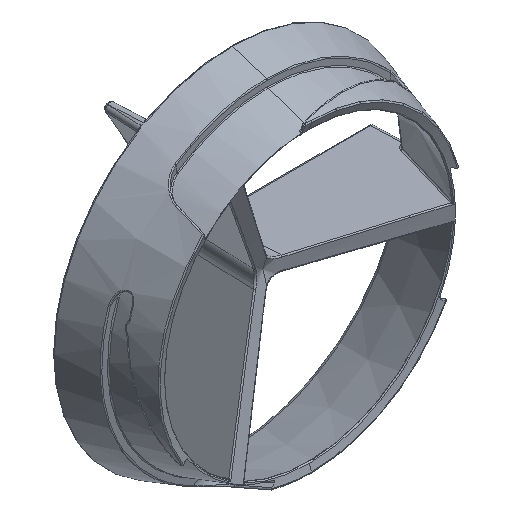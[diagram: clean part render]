
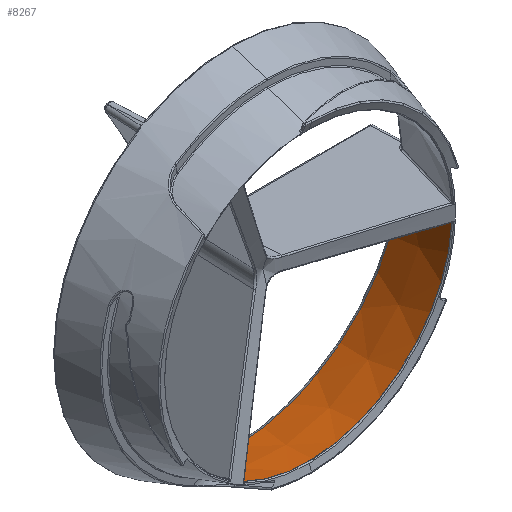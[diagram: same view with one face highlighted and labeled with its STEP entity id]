
A CAD part, isometric view. The second image highlights one B-rep face of the part: STEP entity #8267.
In plain terms, the highlighted conical face has half-angle 17.797 degrees and reference radius 31.946 mm.
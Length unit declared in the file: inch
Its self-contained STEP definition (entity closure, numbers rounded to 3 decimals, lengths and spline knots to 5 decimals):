
#129 = VERTEX_POINT ( 'NONE', #8922 ) ;
#137 = DIRECTION ( 'NONE',  ( 0., 1., 0. ) ) ;
#162 = EDGE_CURVE ( 'NONE', #5011, #11856, #8489, .T. ) ;
#750 = CARTESIAN_POINT ( 'NONE',  ( 0., 0.67201, -1.46569 ) ) ;
#794 = EDGE_LOOP ( 'NONE', ( #4236, #5754, #5793, #10916, #1299, #2564, #13422 ) ) ;
#880 = CARTESIAN_POINT ( 'NONE',  ( -0.55605, 0.03408, -1.13169 ) ) ;
#907 = DIRECTION ( 'NONE',  ( 0., 0., 1. ) ) ;
#927 = CARTESIAN_POINT ( 'NONE',  ( -0.55595, 0.03344, -1.13151 ) ) ;
#1184 = CARTESIAN_POINT ( 'NONE',  ( 1.2582, 0.0344, -0.08428 ) ) ;
#1299 = ORIENTED_EDGE ( 'NONE', *, *, #9884, .T. ) ;
#1637 = B_SPLINE_CURVE_WITH_KNOTS ( 'NONE', 3,
 ( #11662, #4043, #11594, #6239 ),
 .UNSPECIFIED., .F., .F.,
 ( 4, 4 ),
 ( 0., 0.00003 ),
 .UNSPECIFIED. ) ;
#1763 = AXIS2_PLACEMENT_3D ( 'NONE', #2696, #3611, #8067 ) ;
#2228 = CARTESIAN_POINT ( 'NONE',  ( 1.46439, 0.67201, -0.06179 ) ) ;
#2564 = ORIENTED_EDGE ( 'NONE', *, *, #7236, .T. ) ;
#2636 = CARTESIAN_POINT ( 'NONE',  ( 0., 0.67201, 0. ) ) ;
#2696 = CARTESIAN_POINT ( 'NONE',  ( 0., 0.03344, 0. ) ) ;
#3049 = B_SPLINE_CURVE_WITH_KNOTS ( 'NONE', 3,
 ( #12429, #11840, #9184, #8127 ),
 .UNSPECIFIED., .F., .F.,
 ( 4, 4 ),
 ( 0., 1. ),
 .UNSPECIFIED. ) ;
#3313 = B_SPLINE_CURVE_WITH_KNOTS ( 'NONE', 3,
 ( #1184, #6484, #9527, #2228 ),
 .UNSPECIFIED., .F., .F.,
 ( 4, 4 ),
 ( 0., 1. ),
 .UNSPECIFIED. ) ;
#3611 = DIRECTION ( 'NONE',  ( 0., -1., 0. ) ) ;
#4043 = CARTESIAN_POINT ( 'NONE',  ( 1.25799, 0.03376, -0.0843 ) ) ;
#4223 = DIRECTION ( 'NONE',  ( 0., 1., 0. ) ) ;
#4236 = ORIENTED_EDGE ( 'NONE', *, *, #12488, .T. ) ;
#4626 = AXIS2_PLACEMENT_3D ( 'NONE', #6625, #137, #13048 ) ;
#4809 = VERTEX_POINT ( 'NONE', #10228 ) ;
#5011 = VERTEX_POINT ( 'NONE', #10420 ) ;
#5050 = VERTEX_POINT ( 'NONE', #750 ) ;
#5429 = FACE_OUTER_BOUND ( 'NONE', #794, .T. ) ;
#5457 = EDGE_CURVE ( 'NONE', #4809, #129, #1637, .T. ) ;
#5638 = AXIS2_PLACEMENT_3D ( 'NONE', #13899, #4223, #907 ) ;
#5754 = ORIENTED_EDGE ( 'NONE', *, *, #5457, .T. ) ;
#5758 = DIRECTION ( 'NONE',  ( 0., 0., 1. ) ) ;
#5793 = ORIENTED_EDGE ( 'NONE', *, *, #12873, .T. ) ;
#6239 = CARTESIAN_POINT ( 'NONE',  ( 1.2582, 0.0344, -0.08428 ) ) ;
#6484 = CARTESIAN_POINT ( 'NONE',  ( 1.32183, 0.23073, -0.07735 ) ) ;
#6625 = CARTESIAN_POINT ( 'NONE',  ( 0., 0.02407, 0. ) ) ;
#7236 = EDGE_CURVE ( 'NONE', #13443, #5011, #3049, .T. ) ;
#7556 = CONICAL_SURFACE ( 'NONE', #4626, 1.2577, 0.311 ) ;
#7665 = AXIS2_PLACEMENT_3D ( 'NONE', #2636, #13366, #5758 ) ;
#7767 = CARTESIAN_POINT ( 'NONE',  ( -0.67869, 0.67201, -1.29909 ) ) ;
#7841 = CIRCLE ( 'NONE', #1763, 1.26071 ) ;
#7974 = VERTEX_POINT ( 'NONE', #11299 ) ;
#8067 = DIRECTION ( 'NONE',  ( 0., 0., 1. ) ) ;
#8124 = CIRCLE ( 'NONE', #7665, 1.46569 ) ;
#8127 = CARTESIAN_POINT ( 'NONE',  ( -0.55611, 0.0344, -1.13178 ) ) ;
#8267 = ADVANCED_FACE ( 'NONE', ( #5429 ), #7556, .F. ) ;
#8489 = B_SPLINE_CURVE_WITH_KNOTS ( 'NONE', 3,
 ( #13869, #880, #9493, #11745 ),
 .UNSPECIFIED., .F., .F.,
 ( 4, 4 ),
 ( 0., 0.00003 ),
 .UNSPECIFIED. ) ;
#8922 = CARTESIAN_POINT ( 'NONE',  ( 1.2582, 0.0344, -0.08428 ) ) ;
#9184 = CARTESIAN_POINT ( 'NONE',  ( -0.59393, 0.23073, -1.18341 ) ) ;
#9493 = CARTESIAN_POINT ( 'NONE',  ( -0.55599, 0.03376, -1.1316 ) ) ;
#9527 = CARTESIAN_POINT ( 'NONE',  ( 1.39056, 0.44326, -0.06985 ) ) ;
#9884 = EDGE_CURVE ( 'NONE', #5050, #13443, #10817, .T. ) ;
#10228 = CARTESIAN_POINT ( 'NONE',  ( 1.25789, 0.03344, -0.08429 ) ) ;
#10420 = CARTESIAN_POINT ( 'NONE',  ( -0.55611, 0.0344, -1.13178 ) ) ;
#10817 = CIRCLE ( 'NONE', #5638, 1.46569 ) ;
#10916 = ORIENTED_EDGE ( 'NONE', *, *, #11293, .T. ) ;
#11293 = EDGE_CURVE ( 'NONE', #7974, #5050, #8124, .T. ) ;
#11299 = CARTESIAN_POINT ( 'NONE',  ( 1.46439, 0.67201, -0.06179 ) ) ;
#11594 = CARTESIAN_POINT ( 'NONE',  ( 1.2581, 0.03408, -0.0843 ) ) ;
#11662 = CARTESIAN_POINT ( 'NONE',  ( 1.25789, 0.03344, -0.08429 ) ) ;
#11745 = CARTESIAN_POINT ( 'NONE',  ( -0.55595, 0.03344, -1.13151 ) ) ;
#11840 = CARTESIAN_POINT ( 'NONE',  ( -0.63479, 0.44326, -1.23918 ) ) ;
#11856 = VERTEX_POINT ( 'NONE', #927 ) ;
#12429 = CARTESIAN_POINT ( 'NONE',  ( -0.67869, 0.67201, -1.29909 ) ) ;
#12488 = EDGE_CURVE ( 'NONE', #11856, #4809, #7841, .T. ) ;
#12873 = EDGE_CURVE ( 'NONE', #129, #7974, #3313, .T. ) ;
#13048 = DIRECTION ( 'NONE',  ( 0., 0., 1. ) ) ;
#13366 = DIRECTION ( 'NONE',  ( 0., 1., 0. ) ) ;
#13422 = ORIENTED_EDGE ( 'NONE', *, *, #162, .T. ) ;
#13443 = VERTEX_POINT ( 'NONE', #7767 ) ;
#13869 = CARTESIAN_POINT ( 'NONE',  ( -0.55611, 0.0344, -1.13178 ) ) ;
#13899 = CARTESIAN_POINT ( 'NONE',  ( 0., 0.67201, 0. ) ) ;
